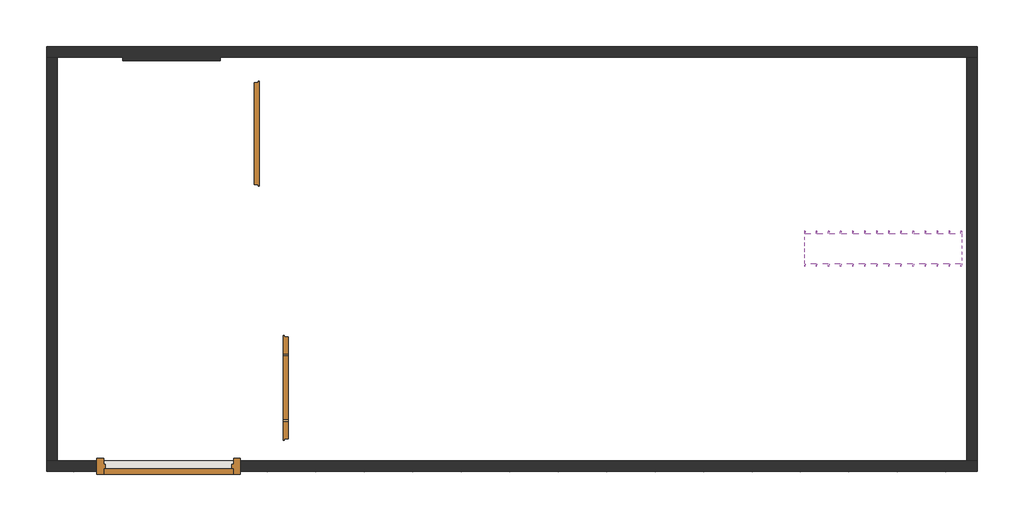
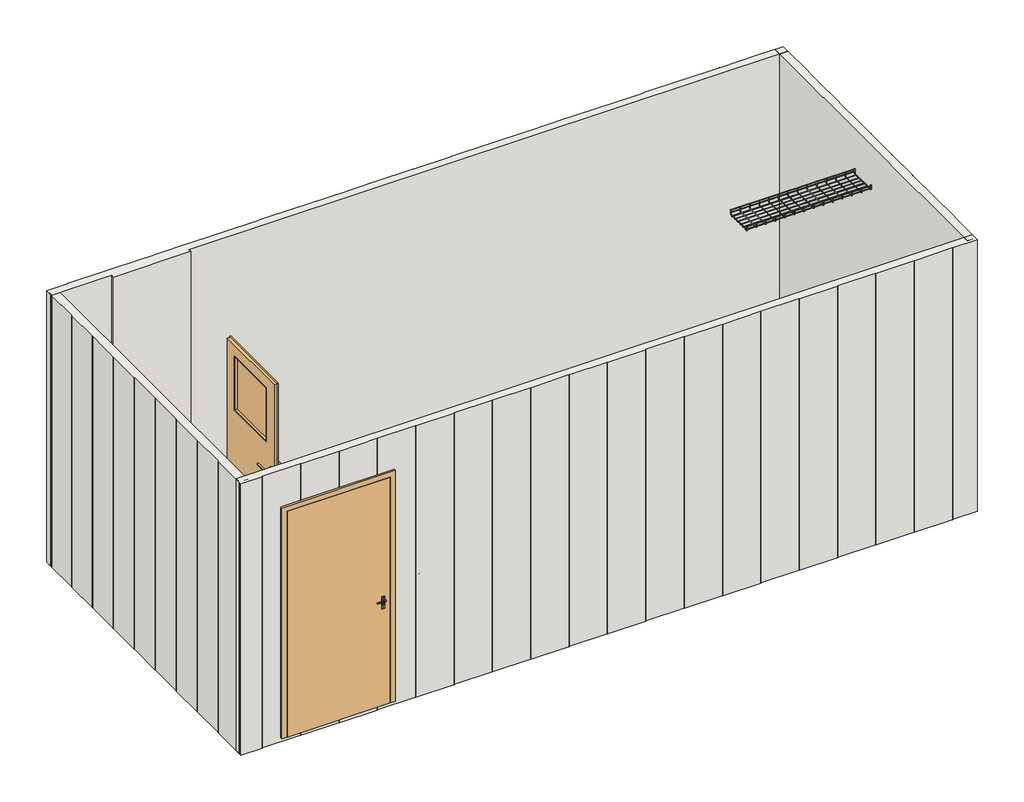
# One storey, incomplete: 4 doors, 4 walls, 1 cable carrier fitting.
"""IFC4 building model written with IfcOpenShell, lengths in millimetres."""

from ifc_helpers import new_model, si_unit, origin, place, context, project, spatial, transform, mapped, element, save
from components import standard_1d8058ac, standard_1cbd9f26, door_7bdfcd05, door_5e853514, default_41fbb746, default_b7d49472, walls_1_walls_2_7fcae3fa, walls_2_walls_2_4adeaf41, walls_3_walls_2_fc2f6cde, walls_7_walls_2_d57c6ef5

model = new_model("IFC4")

# Units and contexts
model_context = context("Model", 3, world=origin())
ifc_project = project(units=[si_unit("LENGTHUNIT", "METRE", prefix="MILLI")], contexts=[model_context])

# Site, building, storey
site = spatial("IfcSite", under=ifc_project)
building = spatial("IfcBuilding", under=site)
storey = spatial("IfcBuildingStorey", under=building, Name="B.O. Footing", Elevation=0.0)

# Cable carrier fitting
placement = place(None, origin())
standard_shape = standard_1d8058ac(model_context)
standard_2_shape = standard_1cbd9f26(model_context)
element("IfcCableCarrierFitting", 1, ObjectType="CableTray_Atkore-Straight-Length : Standard", at=placement, inside=storey, context=model_context, shape_type="MappedRepresentation", body=[
    mapped(standard_shape, transform((1984.3444049, -1670.2772175, 2906.5), x_axis=(1.0, 0.0, 0.0), y_axis=(0.0, 1.0, 0.0), z_axis=(0.0, 0.0, 1.0))),
    mapped(standard_2_shape, transform((1984.3444049, -1670.2772175, 2906.5), x_axis=(1.0, 0.0, 0.0), y_axis=(0.0, 1.0, 0.0), z_axis=(0.0, 0.0, 1.0))),
])

# Doors
door_shape = door_7bdfcd05(model_context)
element("IfcDoor", 2, ObjectType="DoorPanel_Steel_Republic_F : DoorPanel_Steel_Republic_F", at=placement, inside=storey, context=model_context, shape_type="MappedRepresentation", body=[
    mapped(door_shape, transform((-3223.6992009, -3495.7842181, 387.5), x_axis=(-1.0, 0.0, 0.0), y_axis=(0.0, -1.0, 0.0), z_axis=(0.0, 0.0, 1.0))),
])
door_2_shape = door_5e853514(model_context)
element("IfcDoor", 3, ObjectType="Door_Steel_Republic_Single-DoubleRabbet-Equal : ByType", at=placement, inside=storey, context=model_context, shape_type="MappedRepresentation", body=[
    mapped(door_2_shape, transform((-1641.6085041, -4315.6502619, 387.5), x_axis=(-1.0, 0.0, 0.0), y_axis=(0.0, -1.0, 0.0), z_axis=(0.0, 0.0, 1.0))),
])
default_shape = default_41fbb746(model_context)
element("IfcDoor", 4, ObjectType="Panel_FIN_40D_Rebated_Glazed_05 without vent : default", at=placement, inside=storey, context=model_context, shape_type="MappedRepresentation", body=[
    mapped(default_shape, transform((-2286.1686214, -2810.7685273, 375.0), x_axis=(0.0, 1.0, 0.0), y_axis=(-1.0, 0.0, 0.0), z_axis=(0.0, 0.0, 1.0))),
])
default_2_shape = default_b7d49472(model_context)
element("IfcDoor", 5, ObjectType="Panel_FIN_40D_Rebated_Glazed_05 : default", at=placement, inside=storey, context=model_context, shape_type="MappedRepresentation", body=[
    mapped(default_2_shape, transform((-2481.795711, -725.7405273, 375.0), x_axis=(0.0, 1.0, 0.0), y_axis=(-1.0, 0.0, 0.0), z_axis=(0.0, 0.0, 1.0))),
])

# Walls
walls_1_walls_2_shape = walls_1_walls_2_7fcae3fa(model_context)
element("IfcWall", 6, ObjectType="Walls 1 : Walls 2", at=placement, inside=storey, context=model_context, shape_type="MappedRepresentation", body=[
    mapped(walls_1_walls_2_shape, transform((0.0, 0.0, 0.0), x_axis=(1.0, 0.0, 0.0), y_axis=(0.0, 1.0, 0.0), z_axis=(0.0, 0.0, 1.0))),
])
walls_2_walls_2_shape = walls_2_walls_2_4adeaf41(model_context)
element("IfcWall", 7, ObjectType="Walls 2 : Walls 2", at=placement, inside=storey, context=model_context, shape_type="MappedRepresentation", body=[
    mapped(walls_2_walls_2_shape, transform((0.0, 0.0, 0.0), x_axis=(1.0, 0.0, 0.0), y_axis=(0.0, 1.0, 0.0), z_axis=(0.0, 0.0, 1.0))),
])
walls_3_walls_2_shape = walls_3_walls_2_fc2f6cde(model_context)
element("IfcWall", 8, ObjectType="Walls 3 : Walls 2", at=placement, inside=storey, context=model_context, shape_type="MappedRepresentation", body=[
    mapped(walls_3_walls_2_shape, transform((0.0, 0.0, 0.0), x_axis=(1.0, 0.0, 0.0), y_axis=(0.0, 1.0, 0.0), z_axis=(0.0, 0.0, 1.0))),
])
walls_7_walls_2_shape = walls_7_walls_2_d57c6ef5(model_context)
element("IfcWall", 9, ObjectType="Walls 7 : Walls 2", at=placement, inside=storey, context=model_context, shape_type="MappedRepresentation", body=[
    mapped(walls_7_walls_2_shape, transform((0.0, 0.0, 0.0), x_axis=(1.0, 0.0, 0.0), y_axis=(0.0, 1.0, 0.0), z_axis=(0.0, 0.0, 1.0))),
])

save(model, "model.ifc")
